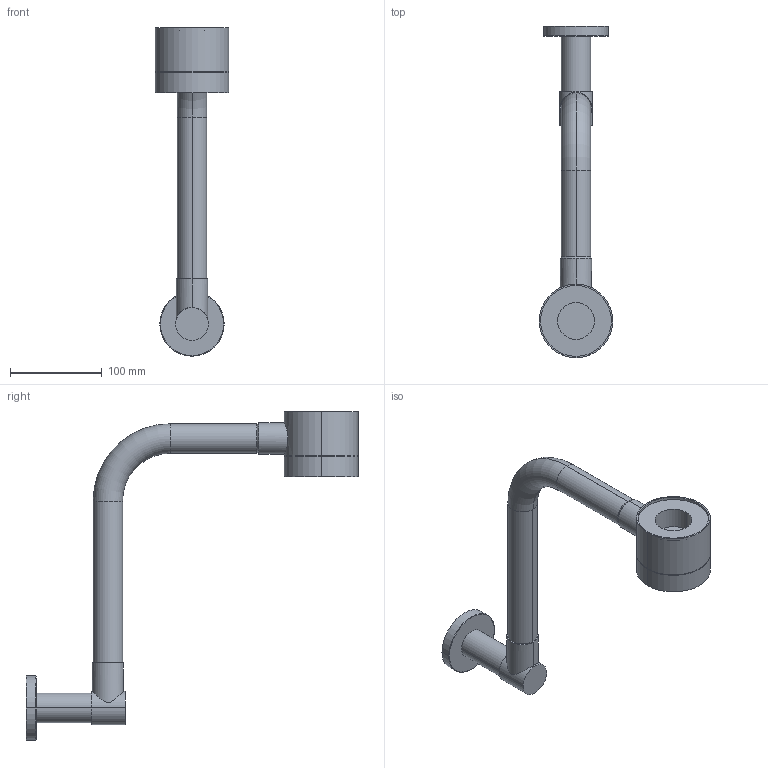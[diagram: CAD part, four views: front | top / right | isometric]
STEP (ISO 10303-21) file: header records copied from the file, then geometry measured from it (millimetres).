
FILE_DESCRIPTION (( 'STEP AP203' ), '1' );
FILE_NAME ('SIF54.STEP', '2025-02-18T13:52:23', ( '' ), ( '' ), 'SwSTEP 2.0', 'SolidWorks 2024', '' );
FILE_SCHEMA (( 'CONFIG_CONTROL_DESIGN' ));
Length unit declared in the file: millimetre
Products named in the file (4): RACCORDO LAVABO; TUBO A MURO; SIF54; TUBO CURVO X SCARICO
Assembly tree (3 placements, depth 2):
  SIF54
    RACCORDO LAVABO
    TUBO A MURO
    TUBO CURVO X SCARICO
Bounding box: 80 x 361 x 357 mm (x, y, z)
Volume: 488397.9 mm3; surface area: 140155.6 mm2
Topology: 3 solids, 3 shells, 53 faces, 102 edges, 64 vertices
Faces by surface type: cylinder 30, plane 15, torus 6, cone 2
Entity records: 2000 total; most frequent: CARTESIAN_POINT 449, DIRECTION 282, ORIENTED_EDGE 204, AXIS2_PLACEMENT_3D 125, EDGE_CURVE 102, CIRCLE 66, EDGE_LOOP 64, VERTEX_POINT 64
